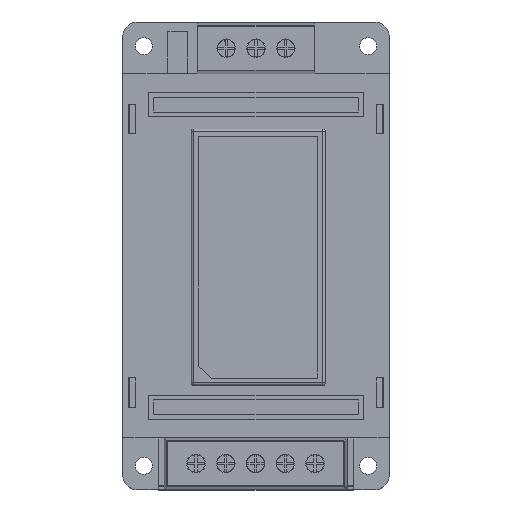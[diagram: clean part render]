
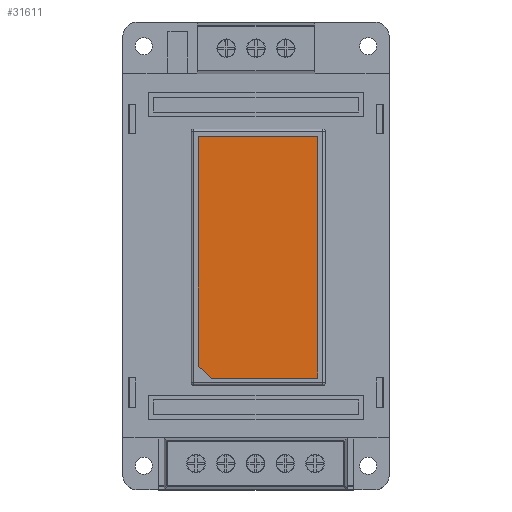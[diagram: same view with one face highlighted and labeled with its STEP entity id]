
A CAD part, top view. The second image highlights one B-rep face of the part: STEP entity #31611.
In plain terms, the highlighted planar face has unit normal (0, 0, 1).
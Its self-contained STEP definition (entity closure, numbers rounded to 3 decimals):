
#30896=DIRECTION('',(0.,-1.,0.));
#30897=VECTOR('',#30896,21.82);
#30898=CARTESIAN_POINT('',(24.75,12.25,23.3));
#30899=LINE('',#30898,#30897);
#30900=DIRECTION('',(-0.668,-0.744,0.));
#30901=VECTOR('',#30900,3.601);
#30902=CARTESIAN_POINT('',(24.75,-9.57,23.3));
#30903=LINE('',#30902,#30901);
#30904=DIRECTION('',(-1.,0.,0.));
#30905=VECTOR('',#30904,47.095);
#30906=CARTESIAN_POINT('',(22.345,-12.25,23.3));
#30907=LINE('',#30906,#30905);
#30908=DIRECTION('',(0.,1.,0.));
#30909=VECTOR('',#30908,24.5);
#30910=CARTESIAN_POINT('',(-24.75,-12.25,23.3));
#30911=LINE('',#30910,#30909);
#30912=DIRECTION('',(1.,0.,0.));
#30913=VECTOR('',#30912,49.5);
#30914=CARTESIAN_POINT('',(-24.75,12.25,23.3));
#30915=LINE('',#30914,#30913);
#31054=CARTESIAN_POINT('',(24.75,-9.57,23.3));
#31055=VERTEX_POINT('',#31054);
#31056=CARTESIAN_POINT('',(24.75,12.25,23.3));
#31057=VERTEX_POINT('',#31056);
#31058=CARTESIAN_POINT('',(22.345,-12.25,23.3));
#31059=VERTEX_POINT('',#31058);
#31060=CARTESIAN_POINT('',(-24.75,-12.25,23.3));
#31061=VERTEX_POINT('',#31060);
#31062=CARTESIAN_POINT('',(-24.75,12.25,23.3));
#31063=VERTEX_POINT('',#31062);
#31599=CARTESIAN_POINT('',(0.,0.,23.3));
#31600=DIRECTION('',(0.,0.,1.));
#31601=DIRECTION('',(1.,0.,0.));
#31602=AXIS2_PLACEMENT_3D('',#31599,#31600,#31601);
#31603=PLANE('',#31602);
#31604=ORIENTED_EDGE('',*,*,#31502,.T.);
#31605=ORIENTED_EDGE('',*,*,#31524,.T.);
#31606=ORIENTED_EDGE('',*,*,#31545,.T.);
#31607=ORIENTED_EDGE('',*,*,#31566,.T.);
#31608=ORIENTED_EDGE('',*,*,#31586,.T.);
#31609=EDGE_LOOP('',(#31604,#31605,#31606,#31607,#31608));
#31610=FACE_OUTER_BOUND('',#31609,.F.);
#31502=EDGE_CURVE('',#31057,#31055,#30899,.T.);
#31524=EDGE_CURVE('',#31055,#31059,#30903,.T.);
#31545=EDGE_CURVE('',#31059,#31061,#30907,.T.);
#31566=EDGE_CURVE('',#31061,#31063,#30911,.T.);
#31586=EDGE_CURVE('',#31063,#31057,#30915,.T.);
#31611=ADVANCED_FACE('',(#31610),#31603,.T.);
